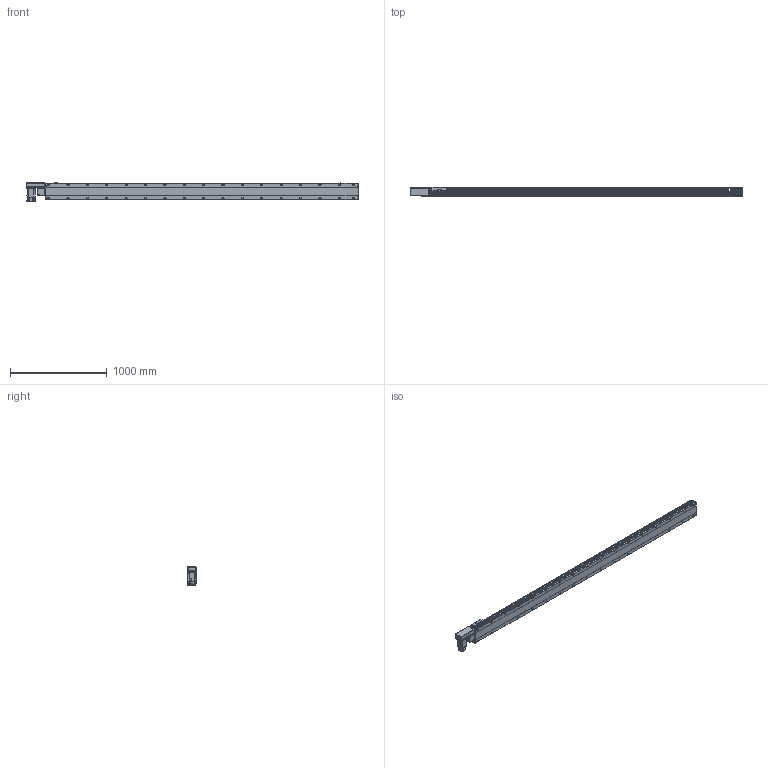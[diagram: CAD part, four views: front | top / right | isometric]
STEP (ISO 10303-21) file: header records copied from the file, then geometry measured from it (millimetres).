
FILE_DESCRIPTION( ( 'STEP AP214' ), '1' );
FILE_NAME( 'x:/temp/worker_4/temp/exporttempdir_2248_300_Q33Qj/format_0/PBS170-P40-S2950-R-T75-C1-N(0).stp', '2022-06-07T07:33:20', ( 'License CC BY-ND 4.0' ), ( 'CADENAS' ), ' ', 'PARTsolutions', ' ' );
FILE_SCHEMA( ( 'AUTOMOTIVE_DESIGN { 1 0 10303 214 1 1 1 1 }' ) );
Length unit declared in the file: millimetre
Products named in the file (7): PBS170-P40-S2950-R-T75-C1-N(0); _PBS170-S2950()_body; _PBS170T-R_motors; _T75-p1; _PBS170_sliser; _PBS170_plant; _PBS170_sensor
Assembly tree (8 placements, depth 2):
  PBS170-P40-S2950-R-T75-C1-N(0)
    _PBS170-S2950()_body
    _PBS170T-R_motors
    _T75-p1
    _PBS170_sliser
    _PBS170_plant
    _PBS170_sensor  x3
Bounding box: 3428 x 97 x 205.3 mm (x, y, z)
Volume: 24885339.1 mm3; surface area: 3116293.2 mm2
Topology: 8 solids, 8 shells, 1226 faces, 3235 edges, 2108 vertices
Faces by surface type: plane 741, cylinder 411, cone 64, sphere 8, torus 2
Full cylindrical faces by diameter (mm): 3.242 x4, 4 x2, 4.4 x4, 4.5 x6, 4.917 x4, 6 x9, 6.647 x42, 7 x2, 7.5 x4, 8 x8, 8.5 x34, 10 x4, 10.5 x34, 11 x2, 30 x2, 40 x1, 70 x1
Entity records: 45518 total; most frequent: CARTESIAN_POINT 7733, DIRECTION 5930, ORIENTED_EDGE 5568, EDGE_CURVE 2784, AXIS2_PLACEMENT_3D 2107, VERTEX_POINT 1946, LINE 1716, VECTOR 1716
